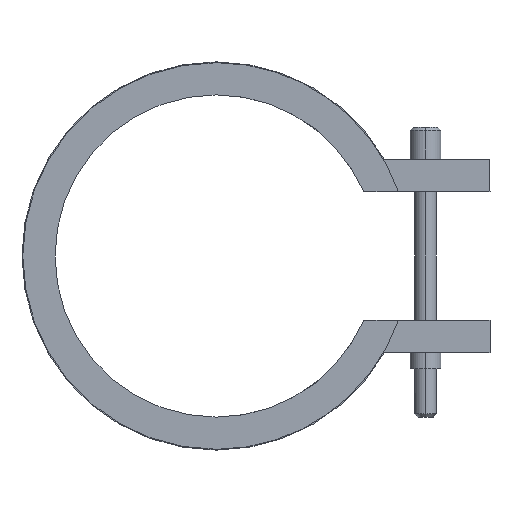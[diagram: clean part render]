
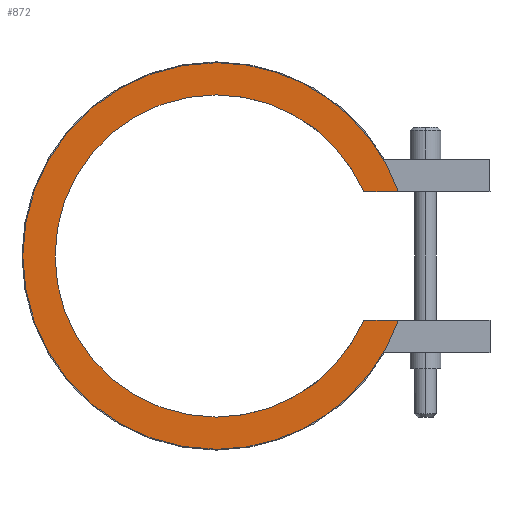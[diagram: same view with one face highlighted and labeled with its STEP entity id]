
A CAD part, left-side view. The second image highlights one B-rep face of the part: STEP entity #872.
In plain terms, the highlighted planar face has unit normal (-1, 0, 0).
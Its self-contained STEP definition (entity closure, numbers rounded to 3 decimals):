
#410=CARTESIAN_POINT('Vertex',(-17.5,-18.33,-8.)) ;
#413=CARTESIAN_POINT('Line Origine',(-17.5,-20.479,-8.)) ;
#417=CARTESIAN_POINT('Vertex',(-17.5,-22.627,-8.)) ;
#463=CARTESIAN_POINT('Vertex',(-17.5,0.,-24.)) ;
#466=CARTESIAN_POINT('Axis2P3D Location',(-17.5,0.,0.)) ;
#487=CARTESIAN_POINT('Vertex',(-17.5,0.,24.)) ;
#490=CARTESIAN_POINT('Axis2P3D Location',(-17.5,0.,0.)) ;
#502=CARTESIAN_POINT('Axis2P3D Location',(-17.5,0.,0.)) ;
#506=CARTESIAN_POINT('Vertex',(-17.5,-22.627,8.)) ;
#526=CARTESIAN_POINT('Line Origine',(-17.5,-20.479,8.)) ;
#530=CARTESIAN_POINT('Vertex',(-17.5,-18.33,8.)) ;
#818=CARTESIAN_POINT('Axis2P3D Location',(-17.5,0.,0.)) ;
#822=CARTESIAN_POINT('Vertex',(-17.5,0.,-20.)) ;
#845=CARTESIAN_POINT('Axis2P3D Location',(-17.5,0.,0.)) ;
#850=CARTESIAN_POINT('Axis2P3D Location',(-17.5,0.,0.)) ;
#854=CARTESIAN_POINT('Vertex',(-17.5,0.,20.)) ;
#857=CARTESIAN_POINT('Axis2P3D Location',(-17.5,0.,0.)) ;
#414=DIRECTION('Vector Direction',(0.,1.,0.)) ;
#467=DIRECTION('Axis2P3D Direction',(1.,0.,-0.)) ;
#491=DIRECTION('Axis2P3D Direction',(1.,0.,-0.)) ;
#503=DIRECTION('Axis2P3D Direction',(1.,0.,-0.)) ;
#527=DIRECTION('Vector Direction',(0.,-1.,0.)) ;
#819=DIRECTION('Axis2P3D Direction',(1.,0.,-0.)) ;
#846=DIRECTION('Axis2P3D Direction',(1.,0.,0.)) ;
#847=DIRECTION('Axis2P3D XDirection',(0.,0.,-1.)) ;
#851=DIRECTION('Axis2P3D Direction',(1.,0.,0.)) ;
#858=DIRECTION('Axis2P3D Direction',(1.,0.,0.)) ;
#468=AXIS2_PLACEMENT_3D('Circle Axis2P3D',#466,#467,$) ;
#492=AXIS2_PLACEMENT_3D('Circle Axis2P3D',#490,#491,$) ;
#504=AXIS2_PLACEMENT_3D('Circle Axis2P3D',#502,#503,$) ;
#820=AXIS2_PLACEMENT_3D('Circle Axis2P3D',#818,#819,$) ;
#848=AXIS2_PLACEMENT_3D('Plane Axis2P3D',#845,#846,#847) ;
#852=AXIS2_PLACEMENT_3D('Circle Axis2P3D',#850,#851,$) ;
#859=AXIS2_PLACEMENT_3D('Circle Axis2P3D',#857,#858,$) ;
#863=ORIENTED_EDGE('',*,*,#419,.T.) ;
#864=ORIENTED_EDGE('',*,*,#824,.T.) ;
#865=ORIENTED_EDGE('',*,*,#856,.T.) ;
#866=ORIENTED_EDGE('',*,*,#861,.T.) ;
#867=ORIENTED_EDGE('',*,*,#532,.T.) ;
#868=ORIENTED_EDGE('',*,*,#508,.F.) ;
#869=ORIENTED_EDGE('',*,*,#494,.F.) ;
#870=ORIENTED_EDGE('',*,*,#470,.F.) ;
#415=VECTOR('Line Direction',#414,1.) ;
#528=VECTOR('Line Direction',#527,1.) ;
#872=ADVANCED_FACE('14040035',(#871),#849,.F.) ;
#469=CIRCLE('generated circle',#468,24.) ;
#493=CIRCLE('generated circle',#492,24.) ;
#505=CIRCLE('generated circle',#504,24.) ;
#821=CIRCLE('generated circle',#820,20.) ;
#853=CIRCLE('generated circle',#852,20.) ;
#860=CIRCLE('generated circle',#859,20.) ;
#419=EDGE_CURVE('',#418,#411,#416,.T.) ;
#470=EDGE_CURVE('',#418,#464,#469,.T.) ;
#494=EDGE_CURVE('',#464,#488,#493,.T.) ;
#508=EDGE_CURVE('',#488,#507,#505,.T.) ;
#532=EDGE_CURVE('',#531,#507,#529,.T.) ;
#824=EDGE_CURVE('',#411,#823,#821,.T.) ;
#856=EDGE_CURVE('',#823,#855,#853,.T.) ;
#861=EDGE_CURVE('',#855,#531,#860,.T.) ;
#862=EDGE_LOOP('',(#863,#864,#865,#866,#867,#868,#869,#870)) ;
#871=FACE_OUTER_BOUND('',#862,.T.) ;
#416=LINE('Line',#413,#415) ;
#529=LINE('Line',#526,#528) ;
#849=PLANE('Plane',#848) ;
#411=VERTEX_POINT('',#410) ;
#418=VERTEX_POINT('',#417) ;
#464=VERTEX_POINT('',#463) ;
#488=VERTEX_POINT('',#487) ;
#507=VERTEX_POINT('',#506) ;
#531=VERTEX_POINT('',#530) ;
#823=VERTEX_POINT('',#822) ;
#855=VERTEX_POINT('',#854) ;
